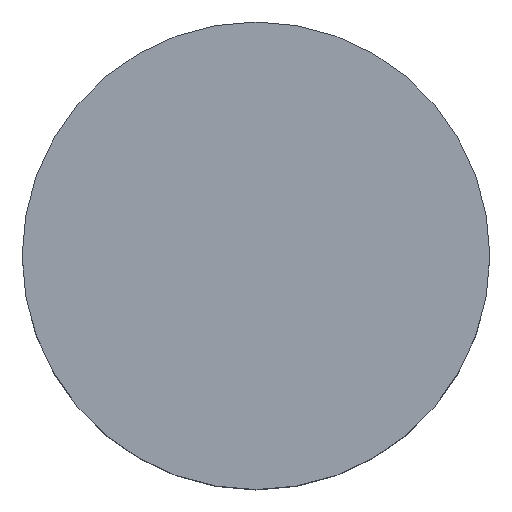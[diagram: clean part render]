
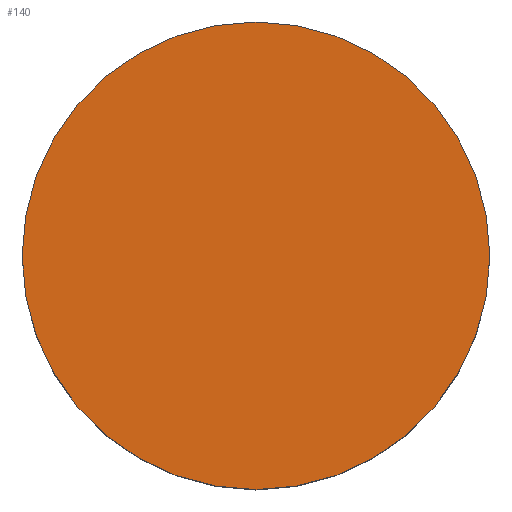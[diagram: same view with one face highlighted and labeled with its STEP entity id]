
A CAD part, top view. The second image highlights one B-rep face of the part: STEP entity #140.
In plain terms, the highlighted planar face has unit normal (0, 0, 1).
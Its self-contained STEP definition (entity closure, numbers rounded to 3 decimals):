
#24 = VERTEX_POINT('',#25);
#25 = CARTESIAN_POINT('',(7.25,0.,7.));
#32 = CYLINDRICAL_SURFACE('',#33,7.25);
#33 = AXIS2_PLACEMENT_3D('',#34,#35,#36);
#34 = CARTESIAN_POINT('',(0.,0.,0.));
#35 = DIRECTION('',(-0.,-0.,-1.));
#36 = DIRECTION('',(1.,0.,0.));
#51 = EDGE_CURVE('',#24,#24,#52,.T.);
#52 = SURFACE_CURVE('',#53,(#58,#65),.PCURVE_S1.);
#53 = CIRCLE('',#54,7.25);
#54 = AXIS2_PLACEMENT_3D('',#55,#56,#57);
#55 = CARTESIAN_POINT('',(0.,0.,7.));
#56 = DIRECTION('',(0.,0.,1.));
#57 = DIRECTION('',(1.,0.,0.));
#58 = PCURVE('',#32,#59);
#59 = DEFINITIONAL_REPRESENTATION('',(#60),#64);
#60 = LINE('',#61,#62);
#61 = CARTESIAN_POINT('',(-0.,-7.));
#62 = VECTOR('',#63,1.);
#63 = DIRECTION('',(-1.,0.));
#64 = ( GEOMETRIC_REPRESENTATION_CONTEXT(2) 
PARAMETRIC_REPRESENTATION_CONTEXT() REPRESENTATION_CONTEXT('2D SPACE',''
  ) );
#65 = PCURVE('',#66,#71);
#66 = PLANE('',#67);
#67 = AXIS2_PLACEMENT_3D('',#68,#69,#70);
#68 = CARTESIAN_POINT('',(0.,0.,7.));
#69 = DIRECTION('',(0.,0.,1.));
#70 = DIRECTION('',(1.,0.,-0.));
#71 = DEFINITIONAL_REPRESENTATION('',(#72),#76);
#72 = CIRCLE('',#73,7.25);
#73 = AXIS2_PLACEMENT_2D('',#74,#75);
#74 = CARTESIAN_POINT('',(0.,0.));
#75 = DIRECTION('',(1.,0.));
#76 = ( GEOMETRIC_REPRESENTATION_CONTEXT(2) 
PARAMETRIC_REPRESENTATION_CONTEXT() REPRESENTATION_CONTEXT('2D SPACE',''
  ) );
#140 = ADVANCED_FACE('',(#141),#66,.T.);
#141 = FACE_BOUND('',#142,.T.);
#142 = EDGE_LOOP('',(#143));
#143 = ORIENTED_EDGE('',*,*,#51,.T.);
